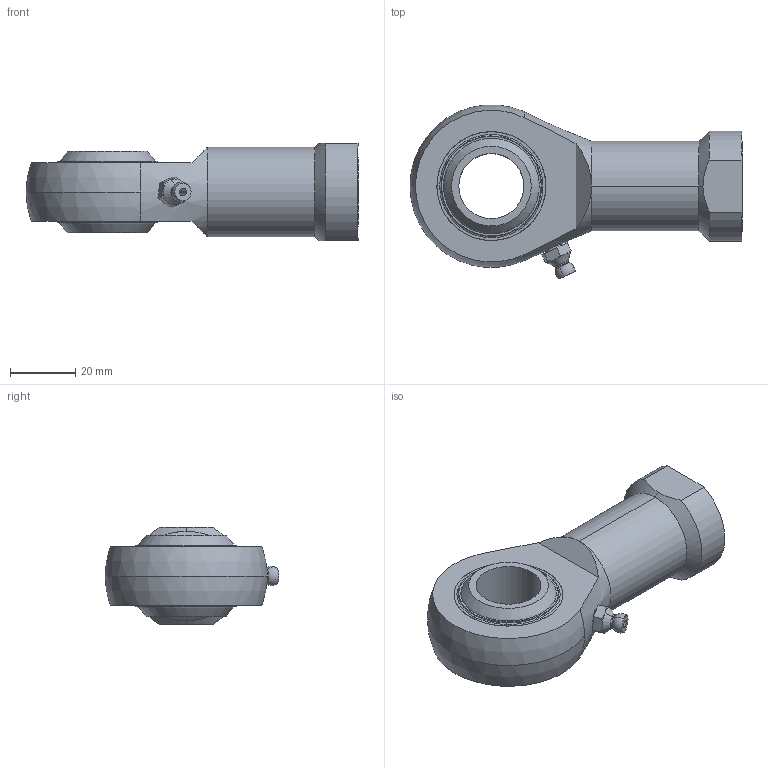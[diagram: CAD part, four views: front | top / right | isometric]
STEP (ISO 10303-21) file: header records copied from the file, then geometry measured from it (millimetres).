
FILE_DESCRIPTION (( 'STEP AP203' ), '1' );
FILE_NAME ('65760.W0120.step', '2014-02-11T16:42:58', ( 'User' ), ( '' ), 'SwSTEP 2.0', 'SolidWorks 2009', '' );
FILE_SCHEMA (( 'CONFIG_CONTROL_DESIGN' ));
Length unit declared in the file: millimetre
Products named in the file (5): 65760.W0120; Part1_65760.W0120; Part2_65760.W0120; Part3_M6; Part4_65760.W0120
Assembly tree (5 placements, depth 2):
  65760.W0120
    Part2_65760.W0120
    Part4_65760.W0120  x2
    Part3_M6
    Part1_65760.W0120
Bounding box: 102 x 53.42 x 30 mm (x, y, z)
Volume: 51847.8 mm3; surface area: 24211.9 mm2
Topology: 46 solids, 46 shells, 183 faces, 524 edges, 353 vertices
Faces by surface type: sphere 98, plane 27, torus 22, cylinder 20, cone 16
Entity records: 4807 total; most frequent: CARTESIAN_POINT 901, DIRECTION 814, ORIENTED_EDGE 558, AXIS2_PLACEMENT_3D 385, EDGE_CURVE 279, VERTEX_POINT 208, CIRCLE 207, EDGE_LOOP 189
